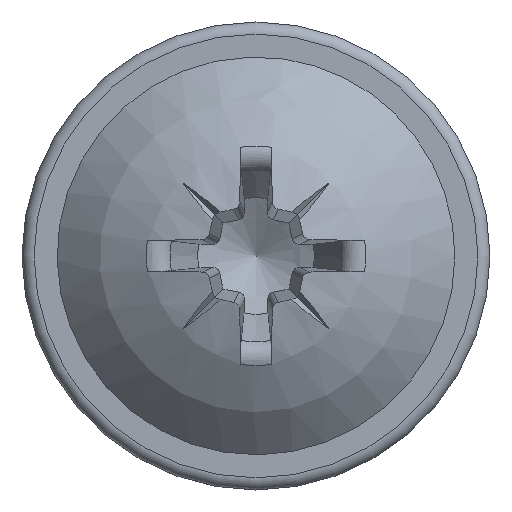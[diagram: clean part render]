
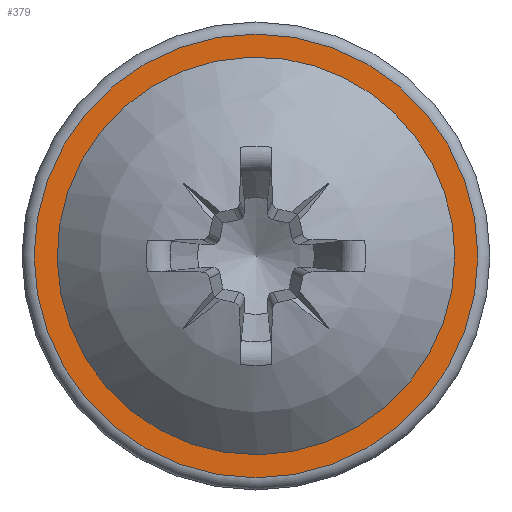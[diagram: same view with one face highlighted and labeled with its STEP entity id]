
A CAD part, top view. The second image highlights one B-rep face of the part: STEP entity #379.
In plain terms, the highlighted planar face has unit normal (0, 0, 1).
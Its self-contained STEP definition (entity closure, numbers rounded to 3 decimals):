
#109=PLANE('',#2074);
#353=FACE_BOUND('',#637,.T.);
#354=FACE_BOUND('',#638,.T.);
#379=ADVANCED_FACE('',(#353,#354),#109,.F.);
#637=EDGE_LOOP('',(#902));
#638=EDGE_LOOP('',(#903));
#762=CIRCLE('',#2032,6.588);
#797=CIRCLE('',#2073,7.35);
#902=ORIENTED_EDGE('',*,*,#1671,.T.);
#903=ORIENTED_EDGE('',*,*,#1620,.F.);
#1436=VERTEX_POINT('',#4022);
#1485=VERTEX_POINT('',#4320);
#1620=EDGE_CURVE('',#1436,#1436,#762,.T.);
#1671=EDGE_CURVE('',#1485,#1485,#797,.T.);
#2032=AXIS2_PLACEMENT_3D('',#4021,#2143,#2144);
#2073=AXIS2_PLACEMENT_3D('',#4319,#2226,#2227);
#2074=AXIS2_PLACEMENT_3D('',#4321,#2228,#2229);
#2143=DIRECTION('',(0.,0.,1.));
#2144=DIRECTION('',(1.,0.,0.));
#2226=DIRECTION('',(0.,0.,1.));
#2227=DIRECTION('',(-1.,0.,0.));
#2228=DIRECTION('',(0.,0.,-1.));
#2229=DIRECTION('',(-1.,0.,0.));
#4021=CARTESIAN_POINT('',(0.,0.,1.6));
#4022=CARTESIAN_POINT('',(6.588,0.,1.6));
#4319=CARTESIAN_POINT('',(0.,0.,1.6));
#4320=CARTESIAN_POINT('',(-7.35,0.,1.6));
#4321=CARTESIAN_POINT('',(0.,7.75,1.6));
